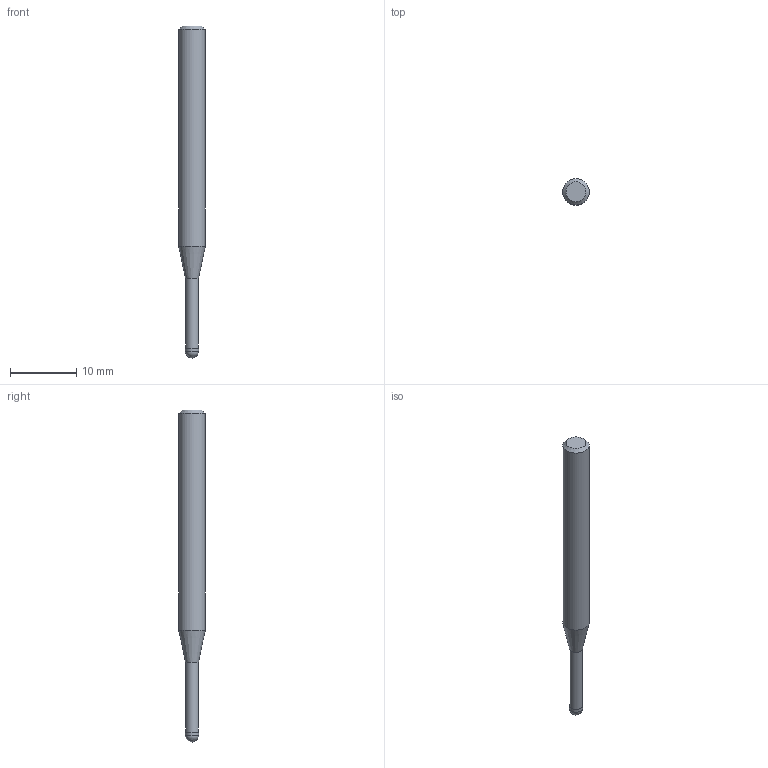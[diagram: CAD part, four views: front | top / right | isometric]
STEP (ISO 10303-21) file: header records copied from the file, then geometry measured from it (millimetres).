
FILE_DESCRIPTION((''),'2;1');
FILE_NAME('C:\Users\nsx150\AppData\Local\Temp\Mastercam 2021\ZXBT0ST9RL\TEMP.step','2021-06-25T11:03:11',(''),(''),'STEP Write','Mastercam 2021 ... CNC Software, Inc.','');
FILE_SCHEMA(('AUTOMOTIVE_DESIGN'));
Length unit declared in the file: millimetre
Products named in the file (1): None
Bounding box: 4 x 4 x 50 mm (x, y, z)
Volume: 484.8 mm3; surface area: 550.9 mm2
Topology: 2 solids, 2 shells, 9 faces, 14 edges, 8 vertices
Faces by surface type: plane 3, cylinder 3, cone 2, sphere 1
Full cylindrical faces by diameter (mm): 1.94 x1, 2 x1, 4 x1
Entity records: 211 total; most frequent: DIRECTION 36, CARTESIAN_POINT 25, AXIS2_PLACEMENT_3D 18, ORIENTED_EDGE 14, EDGE_LOOP 14, STYLED_ITEM 12, ADVANCED_FACE 9, FACE_BOUND 8
